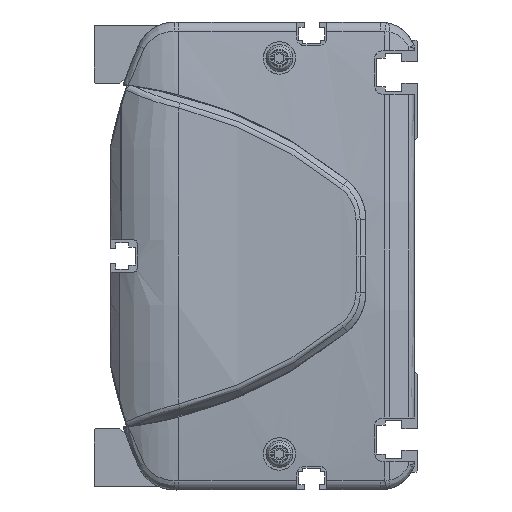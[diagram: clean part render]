
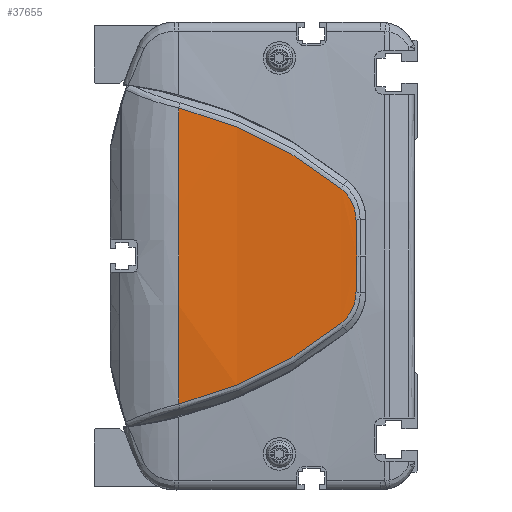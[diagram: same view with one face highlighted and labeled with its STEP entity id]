
A CAD part, left-side view. The second image highlights one B-rep face of the part: STEP entity #37655.
In plain terms, the highlighted cylindrical face has radius 500 mm (diameter 1000 mm), a partial arc.
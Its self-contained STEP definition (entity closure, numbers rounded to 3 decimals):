
#33884=CARTESIAN_POINT('',(486.,66.362,0.));
#33885=DIRECTION('',(0.,-1.,0.));
#33886=DIRECTION('',(-0.997,0.,0.082));
#33887=AXIS2_PLACEMENT_3D('',#33884,#33885,#33886);
#34770=CARTESIAN_POINT('',(-13.648,21.313,
-18.759));
#34771=CARTESIAN_POINT('',(-13.449,27.904,
-24.058));
#34772=CARTESIAN_POINT('',(-12.934,42.195,
-33.27));
#34773=CARTESIAN_POINT('',(-12.471,58.156,
-39.127));
#34774=CARTESIAN_POINT('',(-12.306,66.362,
-41.121));
#34776=CARTESIAN_POINT('',(-12.306,66.362,
41.121));
#34777=CARTESIAN_POINT('',(-12.471,58.156,
39.127));
#34778=CARTESIAN_POINT('',(-12.934,42.195,
33.27));
#34779=CARTESIAN_POINT('',(-13.449,27.904,
24.058));
#34780=CARTESIAN_POINT('',(-13.648,21.313,
18.759));
#34782=CARTESIAN_POINT('',(-13.648,21.313,
18.759));
#34783=CARTESIAN_POINT('',(-13.686,20.035,
17.736));
#34784=CARTESIAN_POINT('',(-13.779,17.936,
15.107));
#34785=CARTESIAN_POINT('',(-13.863,17.152,
11.827));
#34786=CARTESIAN_POINT('',(-13.896,17.124,
10.178));
#34788=CARTESIAN_POINT('',(-13.896,17.124,
10.178));
#34789=CARTESIAN_POINT('',(-13.92,17.107,
9.025));
#34790=CARTESIAN_POINT('',(-13.959,17.067,
6.732));
#34791=CARTESIAN_POINT('',(-13.993,16.98,
3.338));
#34792=CARTESIAN_POINT('',(-14.,16.898,
1.107));
#34793=CARTESIAN_POINT('',(-14.,16.849,
0.));
#34795=CARTESIAN_POINT('',(-14.,16.849,
0.));
#34796=CARTESIAN_POINT('',(-14.,16.898,
-1.107));
#34797=CARTESIAN_POINT('',(-13.993,16.98,
-3.338));
#34798=CARTESIAN_POINT('',(-13.959,17.067,
-6.731));
#34799=CARTESIAN_POINT('',(-13.92,17.107,
-9.026));
#34800=CARTESIAN_POINT('',(-13.896,17.124,
-10.18));
#34802=CARTESIAN_POINT('',(-13.896,17.124,
-10.18));
#34803=CARTESIAN_POINT('',(-13.863,17.152,
-11.828));
#34804=CARTESIAN_POINT('',(-13.779,17.937,
-15.109));
#34805=CARTESIAN_POINT('',(-13.686,20.035,
-17.736));
#34806=CARTESIAN_POINT('',(-13.648,21.313,
-18.759));
#35477=VERTEX_POINT('',#34770);
#35478=VERTEX_POINT('',#34774);
#35479=CARTESIAN_POINT('',(-12.306,66.362,
41.121));
#35480=VERTEX_POINT('',#35479);
#35481=VERTEX_POINT('',#34780);
#35482=VERTEX_POINT('',#34786);
#35483=VERTEX_POINT('',#34793);
#35484=VERTEX_POINT('',#34800);
#37636=CARTESIAN_POINT('',(486.,8.006,0.));
#37637=DIRECTION('',(0.,1.,0.));
#37638=DIRECTION('',(1.,0.,0.));
#37639=AXIS2_PLACEMENT_3D('',#37636,#37637,#37638);
#37640=CYLINDRICAL_SURFACE('',#37639,500.);
#37642=ORIENTED_EDGE('',*,*,#37641,.T.);
#37643=ORIENTED_EDGE('',*,*,#36279,.F.);
#37645=ORIENTED_EDGE('',*,*,#37644,.T.);
#37647=ORIENTED_EDGE('',*,*,#37646,.T.);
#37649=ORIENTED_EDGE('',*,*,#37648,.T.);
#37651=ORIENTED_EDGE('',*,*,#37650,.T.);
#37652=ORIENTED_EDGE('',*,*,#37626,.T.);
#37653=EDGE_LOOP('',(#37642,#37643,#37645,#37647,#37649,#37651,#37652));
#37654=FACE_OUTER_BOUND('',#37653,.F.);
#37655=ADVANCED_FACE('',(#37654),#37640,.T.);
#33888=CIRCLE('',#33887,500.);
#34775=B_SPLINE_CURVE_WITH_KNOTS('',3,(#34770,#34771,#34772,#34773,#34774),
.UNSPECIFIED.,.F.,.F.,(4,1,4),(0.,0.5,1.),.UNSPECIFIED.);
#34781=B_SPLINE_CURVE_WITH_KNOTS('',3,(#34776,#34777,#34778,#34779,#34780),
.UNSPECIFIED.,.F.,.F.,(4,1,4),(0.,0.5,1.),.UNSPECIFIED.);
#34787=B_SPLINE_CURVE_WITH_KNOTS('',3,(#34782,#34783,#34784,#34785,#34786),
.UNSPECIFIED.,.F.,.F.,(4,1,4),(0.,0.5,1.),.UNSPECIFIED.);
#34794=B_SPLINE_CURVE_WITH_KNOTS('',3,(#34788,#34789,#34790,#34791,#34792,
#34793),.UNSPECIFIED.,.F.,.F.,(4,1,1,4),(0.,0.333,
0.667,1.),.UNSPECIFIED.);
#34801=B_SPLINE_CURVE_WITH_KNOTS('',3,(#34795,#34796,#34797,#34798,#34799,
#34800),.UNSPECIFIED.,.F.,.F.,(4,1,1,4),(0.,0.333,
0.667,1.),.UNSPECIFIED.);
#34807=B_SPLINE_CURVE_WITH_KNOTS('',3,(#34802,#34803,#34804,#34805,#34806),
.UNSPECIFIED.,.F.,.F.,(4,1,4),(0.,0.5,1.),.UNSPECIFIED.);
#36279=EDGE_CURVE('',#35480,#35478,#33888,.T.);
#37626=EDGE_CURVE('',#35484,#35477,#34807,.T.);
#37641=EDGE_CURVE('',#35477,#35478,#34775,.T.);
#37644=EDGE_CURVE('',#35480,#35481,#34781,.T.);
#37646=EDGE_CURVE('',#35481,#35482,#34787,.T.);
#37648=EDGE_CURVE('',#35482,#35483,#34794,.T.);
#37650=EDGE_CURVE('',#35483,#35484,#34801,.T.);
